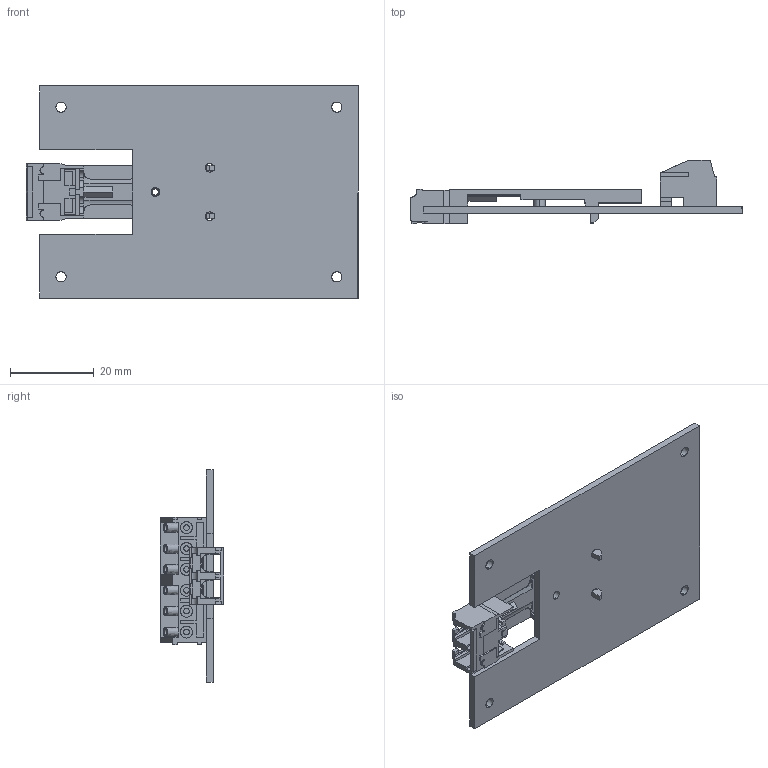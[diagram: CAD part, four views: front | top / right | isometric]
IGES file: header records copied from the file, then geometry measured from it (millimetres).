
Start section: SolidWorks IGES file using analytic representation for surfaces
Global section: file name: N:\_MR380_Signaling\Controller_OEM\Schematic_REVB\SW Model\MR380-0-1.IGS; native system: SolidWorks 2016; preprocessor: SolidWorks 2016; author: alan; date: 160428.141532; units: inch
Bounding box: 79.51 x 15.15 x 50.8 mm (x, y, z)
Surface area: 13489.7 mm2 (no closed solid volume)
Topology: 0 solids, 0 shells, 405 faces, 4488 edges, 4488 vertices
Faces by surface type: bspline 310, revolution 95
